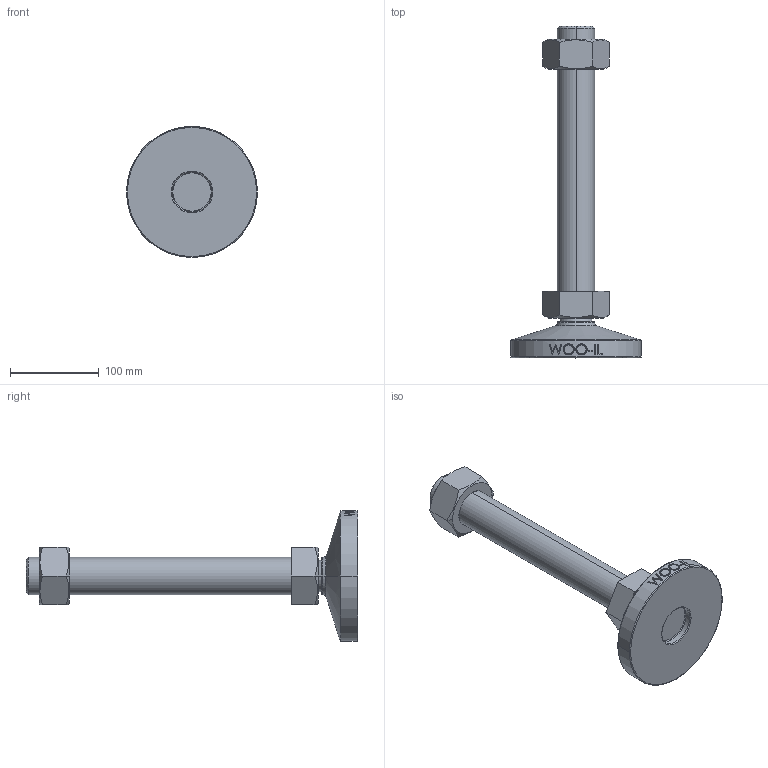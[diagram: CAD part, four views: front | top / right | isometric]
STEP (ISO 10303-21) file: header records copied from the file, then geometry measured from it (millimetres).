
FILE_DESCRIPTION (( 'STEP AP214' ), '1' );
FILE_NAME ('MFN148-M42-300.step', '2021-01-19T06:27:51', ( '' ), ( '' ), 'SwSTEP 2.0', 'SolidWorks 2019', '' );
FILE_SCHEMA (( 'AUTOMOTIVE_DESIGN' ));
Length unit declared in the file: millimetre
Products named in the file (2): MFN148-M42-300
Bounding box: 148 x 375 x 148 mm (x, y, z)
Volume: 1073911.4 mm3; surface area: 113433.7 mm2
Topology: 2 solids, 2 shells, 107 faces, 247 edges, 156 vertices
Faces by surface type: plane 47, cone 18, cylinder 16, bspline 16, torus 8, sphere 2
Entity records: 4761 total; most frequent: CARTESIAN_POINT 2394, ORIENTED_EDGE 494, DIRECTION 447, EDGE_CURVE 247, AXIS2_PLACEMENT_3D 173, VERTEX_POINT 156, EDGE_LOOP 121, FACE_OUTER_BOUND 107
